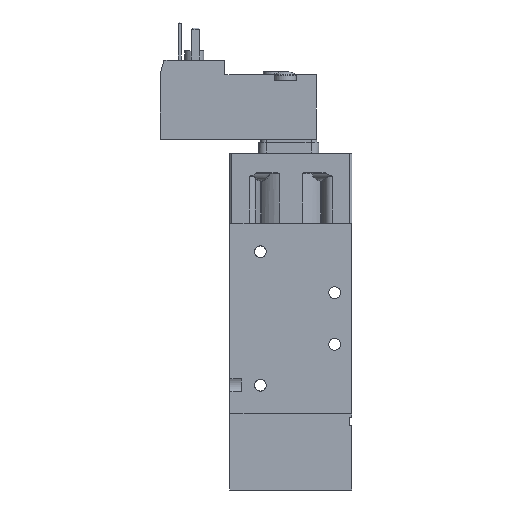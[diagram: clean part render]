
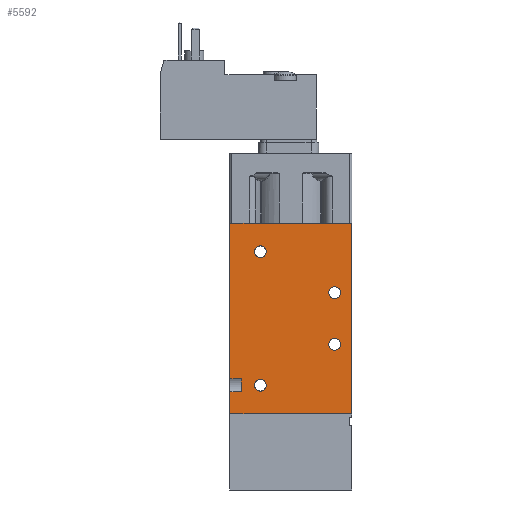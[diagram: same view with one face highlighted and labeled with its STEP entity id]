
A CAD part, front view. The second image highlights one B-rep face of the part: STEP entity #5592.
In plain terms, the highlighted planar face has unit normal (0, -1, 0).
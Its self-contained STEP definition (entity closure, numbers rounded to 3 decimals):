
#368 = DIRECTION ( 'NONE',  ( 1., 0., 0. ) ) ;
#475 = PLANE ( 'NONE',  #9979 ) ;
#844 = DIRECTION ( 'NONE',  ( 0., 0., -1. ) ) ;
#1258 = DIRECTION ( 'NONE',  ( 0., 0., -1. ) ) ;
#1601 = EDGE_CURVE ( 'NONE', #25608, #29468, #51643, .T. ) ;
#1790 = CARTESIAN_POINT ( 'NONE',  ( 27.5, 0., 18.2 ) ) ;
#2052 = CARTESIAN_POINT ( 'NONE',  ( 32., 0., 0. ) ) ;
#2377 = ORIENTED_EDGE ( 'NONE', *, *, #1601, .T. ) ;
#2438 = VECTOR ( 'NONE', #26653, 1000. ) ;
#2500 = DIRECTION ( 'NONE',  ( 0., 1., 0. ) ) ;
#2566 = CARTESIAN_POINT ( 'NONE',  ( 3., 0., 50. ) ) ;
#2989 = EDGE_CURVE ( 'NONE', #3688, #18401, #50230, .T. ) ;
#3045 = VECTOR ( 'NONE', #48487, 1000. ) ;
#3306 = DIRECTION ( 'NONE',  ( 0., 1., 0. ) ) ;
#3381 = ORIENTED_EDGE ( 'NONE', *, *, #2989, .T. ) ;
#3396 = CARTESIAN_POINT ( 'NONE',  ( 8., 0., 42.5 ) ) ;
#3688 = VERTEX_POINT ( 'NONE', #32299 ) ;
#3744 = VERTEX_POINT ( 'NONE', #48730 ) ;
#4325 = EDGE_CURVE ( 'NONE', #22789, #11988, #39986, .T. ) ;
#4762 = CARTESIAN_POINT ( 'NONE',  ( 0., 0., 50. ) ) ;
#5324 = EDGE_CURVE ( 'NONE', #30442, #22789, #10228, .T. ) ;
#5592 = ADVANCED_FACE ( 'NONE', ( #10607, #32040, #20051, #9367, #51021 ), #475, .F. ) ;
#5890 = DIRECTION ( 'NONE',  ( 0., 0., 1. ) ) ;
#6868 = LINE ( 'NONE', #20234, #3045 ) ;
#6880 = ORIENTED_EDGE ( 'NONE', *, *, #29253, .F. ) ;
#7287 = AXIS2_PLACEMENT_3D ( 'NONE', #14426, #42653, #18460 ) ;
#7464 = DIRECTION ( 'NONE',  ( 0., 0., 1. ) ) ;
#7914 = CARTESIAN_POINT ( 'NONE',  ( 0., 0., 50. ) ) ;
#8017 = AXIS2_PLACEMENT_3D ( 'NONE', #1790, #29970, #5890 ) ;
#8382 = VERTEX_POINT ( 'NONE', #43102 ) ;
#8624 = DIRECTION ( 'NONE',  ( 0., 0., 1. ) ) ;
#8625 = VECTOR ( 'NONE', #1258, 1000. ) ;
#9367 = FACE_BOUND ( 'NONE', #17357, .T. ) ;
#9665 = CARTESIAN_POINT ( 'NONE',  ( 8., 0., 9.05 ) ) ;
#9979 = AXIS2_PLACEMENT_3D ( 'NONE', #28666, #32769, #8624 ) ;
#10228 = LINE ( 'NONE', #46768, #41152 ) ;
#10328 = CIRCLE ( 'NONE', #32717, 1.55 ) ;
#10330 = VECTOR ( 'NONE', #844, 1000. ) ;
#10607 = FACE_BOUND ( 'NONE', #29935, .T. ) ;
#11605 = CIRCLE ( 'NONE', #7287, 1.55 ) ;
#11938 = DIRECTION ( 'NONE',  ( 0., 1., 0. ) ) ;
#11988 = VERTEX_POINT ( 'NONE', #26289 ) ;
#12248 = CARTESIAN_POINT ( 'NONE',  ( 32., 0., 50. ) ) ;
#12876 = EDGE_CURVE ( 'NONE', #18401, #3688, #45041, .T. ) ;
#13690 = ORIENTED_EDGE ( 'NONE', *, *, #12876, .T. ) ;
#13803 = ORIENTED_EDGE ( 'NONE', *, *, #4325, .T. ) ;
#13958 = EDGE_CURVE ( 'NONE', #11988, #32875, #15849, .T. ) ;
#14226 = CIRCLE ( 'NONE', #51277, 1.55 ) ;
#14426 = CARTESIAN_POINT ( 'NONE',  ( 27.5, 0., 18.2 ) ) ;
#14999 = EDGE_CURVE ( 'NONE', #29857, #32875, #43613, .T. ) ;
#15692 = CARTESIAN_POINT ( 'NONE',  ( 8., 0., 7.5 ) ) ;
#15807 = CARTESIAN_POINT ( 'NONE',  ( 27.5, 0., 16.65 ) ) ;
#15849 = LINE ( 'NONE', #30552, #45571 ) ;
#15894 = CIRCLE ( 'NONE', #8017, 1.55 ) ;
#16335 = VECTOR ( 'NONE', #368, 1000. ) ;
#16833 = ORIENTED_EDGE ( 'NONE', *, *, #13958, .T. ) ;
#17357 = EDGE_LOOP ( 'NONE', ( #31212, #41109 ) ) ;
#18401 = VERTEX_POINT ( 'NONE', #22251 ) ;
#18460 = DIRECTION ( 'NONE',  ( 0., 0., 1. ) ) ;
#18853 = LINE ( 'NONE', #48726, #16335 ) ;
#19738 = DIRECTION ( 'NONE',  ( 0., 0., 1. ) ) ;
#20051 = FACE_BOUND ( 'NONE', #31792, .T. ) ;
#20234 = CARTESIAN_POINT ( 'NONE',  ( 0., 0., 50. ) ) ;
#20665 = DIRECTION ( 'NONE',  ( 0., 1., 0. ) ) ;
#22133 = VERTEX_POINT ( 'NONE', #25016 ) ;
#22251 = CARTESIAN_POINT ( 'NONE',  ( 27.5, 0., 33.35 ) ) ;
#22789 = VERTEX_POINT ( 'NONE', #41558 ) ;
#23772 = ORIENTED_EDGE ( 'NONE', *, *, #38236, .T. ) ;
#24440 = EDGE_CURVE ( 'NONE', #30438, #46892, #11605, .T. ) ;
#25016 = CARTESIAN_POINT ( 'NONE',  ( 0., 0., 9.158 ) ) ;
#25395 = CARTESIAN_POINT ( 'NONE',  ( 3., 0., 5.842 ) ) ;
#25608 = VERTEX_POINT ( 'NONE', #27638 ) ;
#26289 = CARTESIAN_POINT ( 'NONE',  ( 0., 0., 0. ) ) ;
#26593 = CARTESIAN_POINT ( 'NONE',  ( 27.5, 0., 31.8 ) ) ;
#26653 = DIRECTION ( 'NONE',  ( 0., 0., -1. ) ) ;
#27395 = CARTESIAN_POINT ( 'NONE',  ( 27.5, 0., 31.8 ) ) ;
#27638 = CARTESIAN_POINT ( 'NONE',  ( 8., 0., 5.95 ) ) ;
#28666 = CARTESIAN_POINT ( 'NONE',  ( 0., 0., 50. ) ) ;
#28767 = EDGE_CURVE ( 'NONE', #22133, #8382, #18853, .T. ) ;
#29097 = AXIS2_PLACEMENT_3D ( 'NONE', #27395, #3306, #31478 ) ;
#29253 = EDGE_CURVE ( 'NONE', #38574, #29857, #6868, .T. ) ;
#29455 = CARTESIAN_POINT ( 'NONE',  ( 0., 0., 50. ) ) ;
#29468 = VERTEX_POINT ( 'NONE', #9665 ) ;
#29857 = VERTEX_POINT ( 'NONE', #12248 ) ;
#29935 = EDGE_LOOP ( 'NONE', ( #43494, #2377 ) ) ;
#29970 = DIRECTION ( 'NONE',  ( 0., 1., 0. ) ) ;
#30438 = VERTEX_POINT ( 'NONE', #49590 ) ;
#30442 = VERTEX_POINT ( 'NONE', #25395 ) ;
#30453 = EDGE_CURVE ( 'NONE', #38574, #22133, #40785, .T. ) ;
#30552 = CARTESIAN_POINT ( 'NONE',  ( 0., 0., 0. ) ) ;
#30670 = DIRECTION ( 'NONE',  ( 0., 0., 1. ) ) ;
#30681 = ORIENTED_EDGE ( 'NONE', *, *, #28767, .T. ) ;
#31212 = ORIENTED_EDGE ( 'NONE', *, *, #46904, .T. ) ;
#31478 = DIRECTION ( 'NONE',  ( 0., 0., 1. ) ) ;
#31567 = DIRECTION ( 'NONE',  ( 0., 1., 0. ) ) ;
#31578 = VECTOR ( 'NONE', #49536, 1000. ) ;
#31792 = EDGE_LOOP ( 'NONE', ( #49418, #23772 ) ) ;
#32040 = FACE_BOUND ( 'NONE', #45224, .T. ) ;
#32083 = EDGE_CURVE ( 'NONE', #34676, #3744, #10328, .T. ) ;
#32299 = CARTESIAN_POINT ( 'NONE',  ( 27.5, 0., 30.25 ) ) ;
#32415 = AXIS2_PLACEMENT_3D ( 'NONE', #26593, #2500, #30670 ) ;
#32717 = AXIS2_PLACEMENT_3D ( 'NONE', #3396, #31567, #7464 ) ;
#32769 = DIRECTION ( 'NONE',  ( 0., 1., 0. ) ) ;
#32840 = ORIENTED_EDGE ( 'NONE', *, *, #14999, .F. ) ;
#32875 = VERTEX_POINT ( 'NONE', #2052 ) ;
#33464 = EDGE_CURVE ( 'NONE', #8382, #30442, #44096, .T. ) ;
#34652 = DIRECTION ( 'NONE',  ( 1., 0., 0. ) ) ;
#34676 = VERTEX_POINT ( 'NONE', #49470 ) ;
#34741 = DIRECTION ( 'NONE',  ( -1., 0., 0. ) ) ;
#36092 = CARTESIAN_POINT ( 'NONE',  ( 8., 0., 42.5 ) ) ;
#37272 = ORIENTED_EDGE ( 'NONE', *, *, #33464, .T. ) ;
#38236 = EDGE_CURVE ( 'NONE', #46892, #30438, #15894, .T. ) ;
#38574 = VERTEX_POINT ( 'NONE', #7914 ) ;
#38877 = AXIS2_PLACEMENT_3D ( 'NONE', #15692, #43917, #19738 ) ;
#39001 = CIRCLE ( 'NONE', #50901, 1.55 ) ;
#39986 = LINE ( 'NONE', #4762, #10330 ) ;
#40159 = DIRECTION ( 'NONE',  ( 0., 0., 1. ) ) ;
#40785 = LINE ( 'NONE', #29455, #8625 ) ;
#41109 = ORIENTED_EDGE ( 'NONE', *, *, #32083, .T. ) ;
#41152 = VECTOR ( 'NONE', #34741, 1000. ) ;
#41409 = CARTESIAN_POINT ( 'NONE',  ( 32., 0., 50. ) ) ;
#41558 = CARTESIAN_POINT ( 'NONE',  ( 0., 0., 5.842 ) ) ;
#41602 = ORIENTED_EDGE ( 'NONE', *, *, #5324, .T. ) ;
#41958 = EDGE_LOOP ( 'NONE', ( #37272, #41602, #13803, #16833, #32840, #6880, #49040, #30681 ) ) ;
#42653 = DIRECTION ( 'NONE',  ( 0., 1., 0. ) ) ;
#43102 = CARTESIAN_POINT ( 'NONE',  ( 3., 0., 9.158 ) ) ;
#43494 = ORIENTED_EDGE ( 'NONE', *, *, #45620, .T. ) ;
#43613 = LINE ( 'NONE', #41409, #31578 ) ;
#43917 = DIRECTION ( 'NONE',  ( 0., 1., 0. ) ) ;
#44096 = LINE ( 'NONE', #2566, #2438 ) ;
#44871 = CARTESIAN_POINT ( 'NONE',  ( 8., 0., 7.5 ) ) ;
#45041 = CIRCLE ( 'NONE', #32415, 1.55 ) ;
#45224 = EDGE_LOOP ( 'NONE', ( #13690, #3381 ) ) ;
#45571 = VECTOR ( 'NONE', #34652, 1000. ) ;
#45620 = EDGE_CURVE ( 'NONE', #29468, #25608, #39001, .T. ) ;
#46768 = CARTESIAN_POINT ( 'NONE',  ( 0., 0., 5.842 ) ) ;
#46892 = VERTEX_POINT ( 'NONE', #15807 ) ;
#46904 = EDGE_CURVE ( 'NONE', #3744, #34676, #14226, .T. ) ;
#48487 = DIRECTION ( 'NONE',  ( 1., 0., 0. ) ) ;
#48726 = CARTESIAN_POINT ( 'NONE',  ( 0., 0., 9.158 ) ) ;
#48730 = CARTESIAN_POINT ( 'NONE',  ( 8., 0., 44.05 ) ) ;
#48915 = DIRECTION ( 'NONE',  ( 0., 0., 1. ) ) ;
#49040 = ORIENTED_EDGE ( 'NONE', *, *, #30453, .T. ) ;
#49418 = ORIENTED_EDGE ( 'NONE', *, *, #24440, .T. ) ;
#49470 = CARTESIAN_POINT ( 'NONE',  ( 8., 0., 40.95 ) ) ;
#49536 = DIRECTION ( 'NONE',  ( 0., 0., -1. ) ) ;
#49590 = CARTESIAN_POINT ( 'NONE',  ( 27.5, 0., 19.75 ) ) ;
#50230 = CIRCLE ( 'NONE', #29097, 1.55 ) ;
#50901 = AXIS2_PLACEMENT_3D ( 'NONE', #44871, #20665, #48915 ) ;
#51021 = FACE_OUTER_BOUND ( 'NONE', #41958, .T. ) ;
#51277 = AXIS2_PLACEMENT_3D ( 'NONE', #36092, #11938, #40159 ) ;
#51643 = CIRCLE ( 'NONE', #38877, 1.55 ) ;
